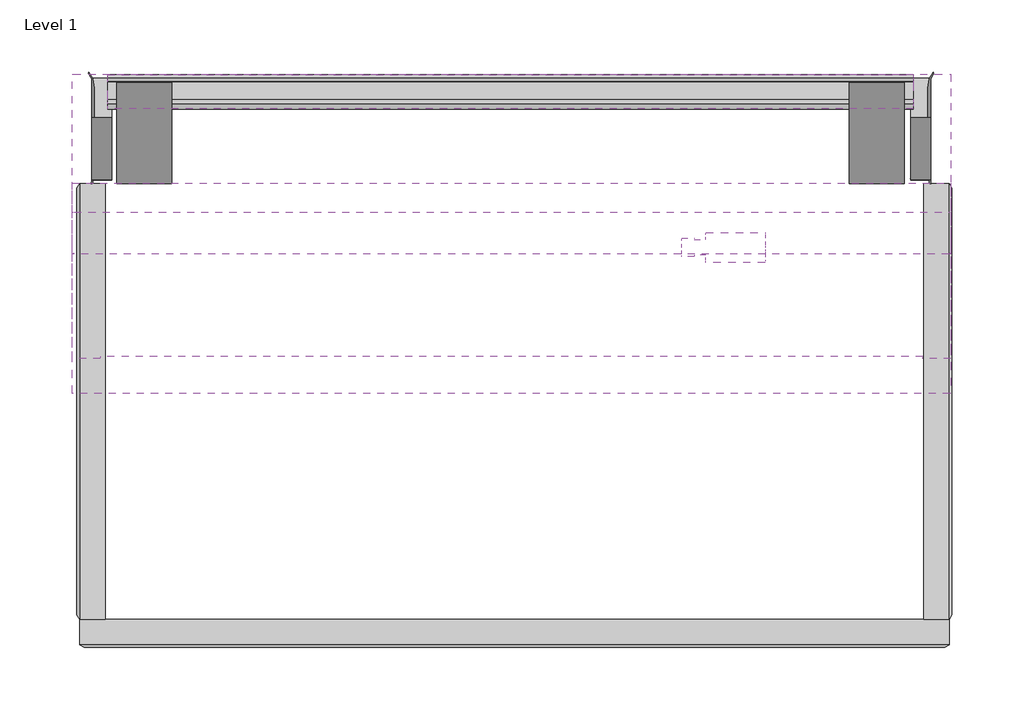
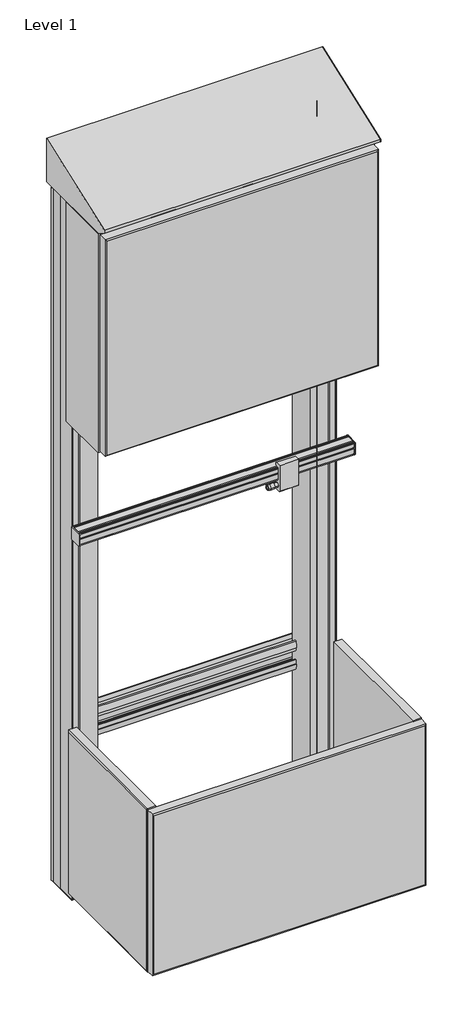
# One storey, incomplete: 11 furniture elements.
"""IFC4 building model written with IfcOpenShell, lengths in millimetres."""

from ifc_helpers import new_model, si_unit, origin, place, context, project, spatial, transform, mapped, element, save
from components import furniture_6843582d, furniture_a7473f77, furniture_71b0f415, furniture_94686434, furniture_ccfcee1f, furniture_ef070875, furniture_40a82fad, furniture_24w_69853d74, furniture_64h_40b55c4c, rail_clamp_bc9ce31f

model = new_model("IFC4")

# Units and contexts
model_context = context("Model", 3, world=origin())
ifc_project = project(units=[si_unit("LENGTHUNIT", "METRE", prefix="MILLI")], contexts=[model_context])

# Site, building, storey
site = spatial("IfcSite", under=ifc_project)
building = spatial("IfcBuilding", under=site)
storey = spatial("IfcBuildingStorey", under=building, Name="Level 1", Elevation=0.0)

# Furniture
placement = place(None, origin())
furniture_shape = furniture_6843582d(model_context)
element("IfcFurniture", 1, ObjectType="HermanMiller_Compass_TW406_Close-OutSlopedCabinetTop : 06D x 24W", at=placement, inside=storey, context=model_context, shape_type="MappedRepresentation", body=[
    mapped(furniture_shape, transform((235.8769751, 21.7285887, 0.0), x_axis=(1.0, 0.0, 0.0), y_axis=(0.0, 1.0, 0.0), z_axis=(0.0, 0.0, 1.0))),
])
furniture_2_shape = furniture_a7473f77(model_context)
element("IfcFurniture", 2, ObjectType="HermanMiller_Compass_TW324_PaperTowelCabinet : 20H x 6D x 24W Durawrap R", at=placement, inside=storey, context=model_context, shape_type="MappedRepresentation", body=[
    mapped(furniture_2_shape, transform((235.8769751, -75.52944, 0.0), x_axis=(1.0, 0.0, 0.0), y_axis=(0.0, 1.0, 0.0), z_axis=(0.0, 0.0, 1.0))),
])
furniture_3_shape = furniture_71b0f415(model_context)
element("IfcFurniture", 3, ObjectType="HermanMiller_Compass_TW232_SinkEnclosure : 13D x 24W Durawrap", at=placement, inside=storey, context=model_context, shape_type="MappedRepresentation", body=[
    mapped(furniture_3_shape, transform((237.9106424, -53.77688, 0.0), x_axis=(1.0, 0.0, 0.0), y_axis=(0.0, 1.0, 0.0), z_axis=(0.0, 0.0, 1.0))),
])
furniture_4_shape = furniture_94686434(model_context)
element("IfcFurniture", 4, ObjectType="HermanMiller_Compass_TW100_WallRail : 24W x 33H Lower Position", at=placement, inside=storey, context=model_context, shape_type="MappedRepresentation", body=[
    mapped(furniture_4_shape, transform((254.0, -11.90625, 0.0), x_axis=(1.0, 0.0, 0.0), y_axis=(0.0, 1.0, 0.0), z_axis=(0.0, 0.0, 1.0))),
])
furniture_5_shape = furniture_ccfcee1f(model_context)
element("IfcFurniture", 5, ObjectType="HermanMiller_Compass_TW100_WallRail : 24W x 33H Lower Position", at=placement, inside=storey, context=model_context, shape_type="MappedRepresentation", body=[
    mapped(furniture_5_shape, transform((254.0, -11.90625, 0.0), x_axis=(1.0, 0.0, 0.0), y_axis=(0.0, 1.0, 0.0), z_axis=(0.0, 0.0, 1.0))),
])
furniture_6_shape = furniture_ef070875(model_context)
element("IfcFurniture", 6, ObjectType="HermanMiller_Compass_TW400_Close-OutSide : 89H Right No Cutouts Use W/64H Sloped Cab Top", at=placement, inside=storey, context=model_context, shape_type="MappedRepresentation", body=[
    mapped(furniture_6_shape, transform((513.3401627, -48.8930324, 0.0), x_axis=(1.0, 0.0, 0.0), y_axis=(0.0, 1.0, 0.0), z_axis=(0.0, 0.0, 1.0))),
])
furniture_7_shape = furniture_40a82fad(model_context)
element("IfcFurniture", 7, ObjectType="HermanMiller_Compass_TW400_Close-OutSide : 89H Left  No Cutouts Use W/64H Sloped Cab Top", at=placement, inside=storey, context=model_context, shape_type="MappedRepresentation", body=[
    mapped(furniture_7_shape, transform((-54.7670323, -48.8892056, 0.0), x_axis=(1.0, 0.0, 0.0), y_axis=(0.0, 1.0, 0.0), z_axis=(0.0, 0.0, 1.0))),
])
furniture_24w_shape = furniture_24w_69853d74(model_context)
element("IfcFurniture", 8, ObjectType="HermanMiller_Compass_TW700_AccessoryRail : 24W", at=placement, inside=storey, context=model_context, shape_type="MappedRepresentation", body=[
    mapped(furniture_24w_shape, transform((254.61468, -110.0120037, 0.0), x_axis=(1.0, 0.0, 0.0), y_axis=(0.0, 1.0, 0.0), z_axis=(0.0, 0.0, 1.0))),
])
furniture_64h_shape = furniture_64h_40b55c4c(model_context)
element("IfcFurniture", 9, ObjectType="HermanMiller_Compass_TW110_Stile_RailAttached : 64H", at=placement, inside=storey, context=model_context, shape_type="MappedRepresentation", body=[
    mapped(furniture_64h_shape, transform((0.0, -31.0832668, 0.0), x_axis=(1.0, 0.0, 0.0), y_axis=(0.0, 1.0, 0.0), z_axis=(0.0, 0.0, 1.0))),
])
element("IfcFurniture", 10, ObjectType="HermanMiller_Compass_TW110_Stile_RailAttached : 64H", at=placement, inside=storey, context=model_context, shape_type="MappedRepresentation", body=[
    mapped(furniture_64h_shape, transform((508.0, -31.0832668, 0.0), x_axis=(1.0, 0.0, 0.0), y_axis=(0.0, 1.0, 0.0), z_axis=(0.0, 0.0, 1.0))),
])
rail_clamp_shape = rail_clamp_bc9ce31f(model_context)
element("IfcFurniture", 11, ObjectType="HermanMiller_Compass_TW705_UniversalRailClamp : Rail Clamp", at=placement, inside=storey, context=model_context, shape_type="MappedRepresentation", body=[
    mapped(rail_clamp_shape, transform((410.0449, -78.7135676, 0.0), x_axis=(1.0, 0.0, 0.0), y_axis=(0.0, 1.0, 0.0), z_axis=(0.0, 0.0, 1.0))),
])

save(model, "model.ifc")
